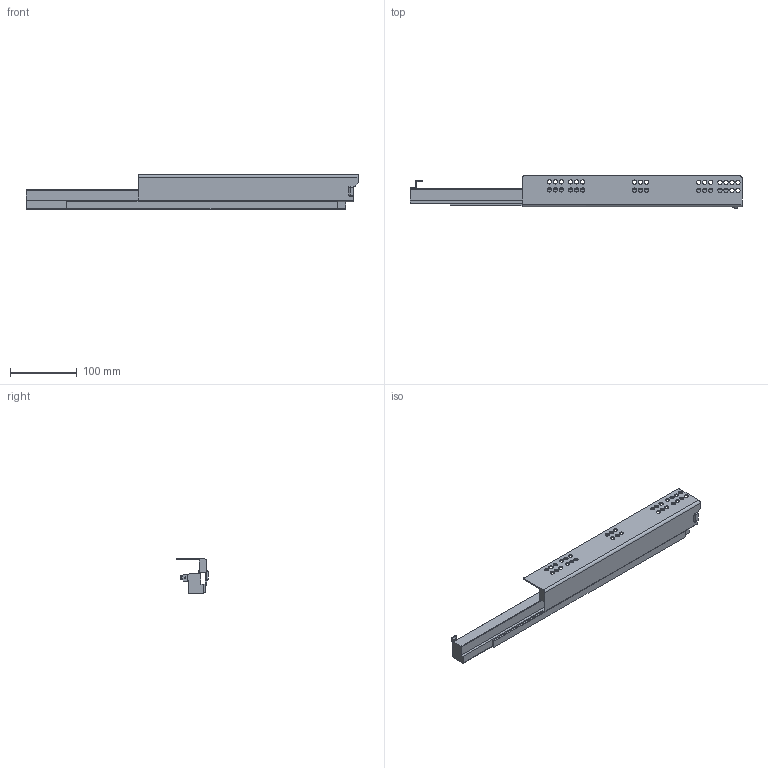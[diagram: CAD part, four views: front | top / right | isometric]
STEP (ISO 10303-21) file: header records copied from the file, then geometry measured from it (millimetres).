
FILE_DESCRIPTION (( 'STEP AP203' ), '1' );
FILE_NAME ('TS10500H-L-DTC3D-close.STEP', '2021-07-09T05:26:56', ( 'df' ), ( 'Microsoft' ), 'SwSTEP 2.0', 'SolidWorks 2018', '' );
FILE_SCHEMA (( 'CONFIG_CONTROL_DESIGN' ));
Length unit declared in the file: millimetre
Products named in the file (1): TS10500H-L-DTC3D-close
Bounding box: 498 x 48 x 51.73 mm (x, y, z)
Volume: 376748.1 mm3; surface area: 107322.4 mm2
Topology: 1 solids, 1 shells, 259 faces, 757 edges, 504 vertices
Faces by surface type: plane 104, cylinder 99, bspline 49, torus 7
Entity records: 12186 total; most frequent: CARTESIAN_POINT 5765, ORIENTED_EDGE 1510, DIRECTION 955, EDGE_CURVE 755, VERTEX_POINT 504, VECTOR 417, LINE 417, EDGE_LOOP 331
